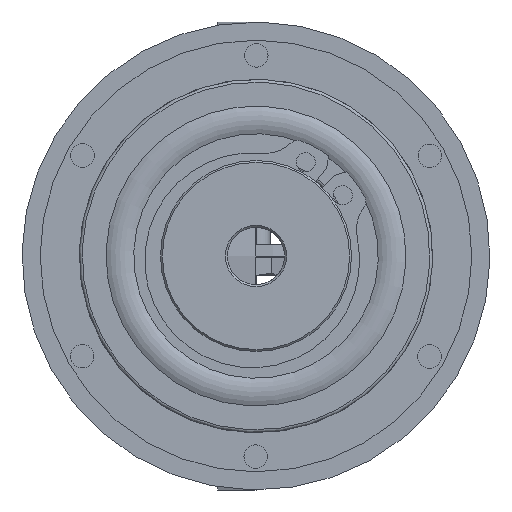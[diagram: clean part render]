
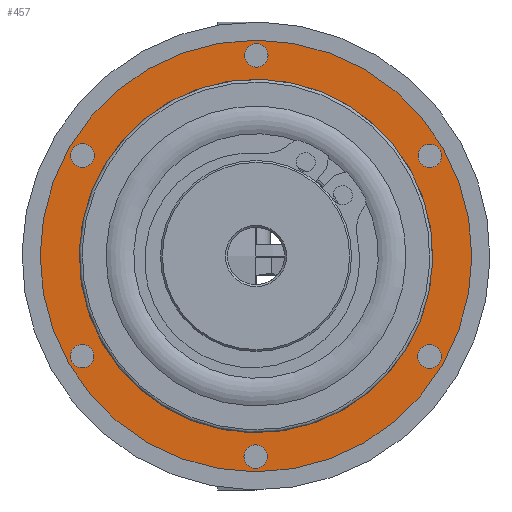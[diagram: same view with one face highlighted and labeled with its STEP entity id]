
A CAD part, left-side view. The second image highlights one B-rep face of the part: STEP entity #457.
In plain terms, the highlighted planar face has unit normal (-1, 0, 0).
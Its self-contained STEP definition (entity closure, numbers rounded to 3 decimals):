
#457 = ADVANCED_FACE( '', ( #815, #816, #817, #818, #819, #820, #821, #822 ), #823, .T. );
#815 = FACE_OUTER_BOUND( '', #1227, .T. );
#816 = FACE_BOUND( '', #1228, .T. );
#817 = FACE_BOUND( '', #1229, .T. );
#818 = FACE_BOUND( '', #1230, .T. );
#819 = FACE_BOUND( '', #1231, .T. );
#820 = FACE_BOUND( '', #1232, .T. );
#821 = FACE_BOUND( '', #1233, .T. );
#822 = FACE_BOUND( '', #1234, .T. );
#823 = PLANE( '', #1235 );
#1227 = EDGE_LOOP( '', ( #1947 ) );
#1228 = EDGE_LOOP( '', ( #1948 ) );
#1229 = EDGE_LOOP( '', ( #1949 ) );
#1230 = EDGE_LOOP( '', ( #1950 ) );
#1231 = EDGE_LOOP( '', ( #1951 ) );
#1232 = EDGE_LOOP( '', ( #1952 ) );
#1233 = EDGE_LOOP( '', ( #1953 ) );
#1234 = EDGE_LOOP( '', ( #1954 ) );
#1235 = AXIS2_PLACEMENT_3D( '', #1955, #1956, #1957 );
#1947 = ORIENTED_EDGE( '', *, *, #2429, .T. );
#1948 = ORIENTED_EDGE( '', *, *, #2433, .T. );
#1949 = ORIENTED_EDGE( '', *, *, #2434, .T. );
#1950 = ORIENTED_EDGE( '', *, *, #2435, .T. );
#1951 = ORIENTED_EDGE( '', *, *, #2424, .T. );
#1952 = ORIENTED_EDGE( '', *, *, #2431, .T. );
#1953 = ORIENTED_EDGE( '', *, *, #2436, .T. );
#1954 = ORIENTED_EDGE( '', *, *, #2428, .F. );
#1955 = CARTESIAN_POINT( '', ( 0., 18.5, 0. ) );
#1956 = DIRECTION( '', ( -1., 0., 0. ) );
#1957 = DIRECTION( '', ( 0., 0., 1. ) );
#2424 = EDGE_CURVE( '', #2784, #2784, #2785, .T. );
#2428 = EDGE_CURVE( '', #2792, #2792, #2793, .T. );
#2429 = EDGE_CURVE( '', #2794, #2794, #2795, .T. );
#2431 = EDGE_CURVE( '', #2798, #2798, #2799, .T. );
#2433 = EDGE_CURVE( '', #2802, #2802, #2803, .T. );
#2434 = EDGE_CURVE( '', #2804, #2804, #2805, .T. );
#2435 = EDGE_CURVE( '', #2806, #2806, #2807, .T. );
#2436 = EDGE_CURVE( '', #2808, #2808, #2809, .T. );
#2784 = VERTEX_POINT( '', #3394 );
#2785 = CIRCLE( '', #3395, 1.23 );
#2792 = VERTEX_POINT( '', #3402 );
#2793 = CIRCLE( '', #3403, 18.5 );
#2794 = VERTEX_POINT( '', #3404 );
#2795 = CIRCLE( '', #3405, 22.6 );
#2798 = VERTEX_POINT( '', #3408 );
#2799 = CIRCLE( '', #3409, 1.23 );
#2802 = VERTEX_POINT( '', #3412 );
#2803 = CIRCLE( '', #3413, 1.23 );
#2804 = VERTEX_POINT( '', #3414 );
#2805 = CIRCLE( '', #3415, 1.23 );
#2806 = VERTEX_POINT( '', #3416 );
#2807 = CIRCLE( '', #3417, 1.23 );
#2808 = VERTEX_POINT( '', #3418 );
#2809 = CIRCLE( '', #3419, 1.23 );
#3394 = CARTESIAN_POINT( '', ( 0., -11.565, 17.572 ) );
#3395 = AXIS2_PLACEMENT_3D( '', #3923, #3924, #3925 );
#3402 = CARTESIAN_POINT( '', ( 0., 0., 18.5 ) );
#3403 = AXIS2_PLACEMENT_3D( '', #3935, #3936, #3937 );
#3404 = CARTESIAN_POINT( '', ( 0., 0., 22.6 ) );
#3405 = AXIS2_PLACEMENT_3D( '', #3938, #3939, #3940 );
#3408 = CARTESIAN_POINT( '', ( 0., 9.435, 18.801 ) );
#3409 = AXIS2_PLACEMENT_3D( '', #3944, #3945, #3946 );
#3412 = CARTESIAN_POINT( '', ( 0., 11.565, -17.572 ) );
#3413 = AXIS2_PLACEMENT_3D( '', #3950, #3951, #3952 );
#3414 = CARTESIAN_POINT( '', ( 0., -9.435, -18.801 ) );
#3415 = AXIS2_PLACEMENT_3D( '', #3953, #3954, #3955 );
#3416 = CARTESIAN_POINT( '', ( 0., -21., -1.23 ) );
#3417 = AXIS2_PLACEMENT_3D( '', #3956, #3957, #3958 );
#3418 = CARTESIAN_POINT( '', ( 0., 21., 1.23 ) );
#3419 = AXIS2_PLACEMENT_3D( '', #3959, #3960, #3961 );
#3923 = CARTESIAN_POINT( '', ( 0., -10.5, 18.187 ) );
#3924 = DIRECTION( '', ( 1., 0., 0. ) );
#3925 = DIRECTION( '', ( 0., -0.866, -0.5 ) );
#3935 = CARTESIAN_POINT( '', ( 0., 0., 0. ) );
#3936 = DIRECTION( '', ( -1., 0., 0. ) );
#3937 = DIRECTION( '', ( 0., 0., 1. ) );
#3938 = CARTESIAN_POINT( '', ( 0., 0., 0. ) );
#3939 = DIRECTION( '', ( -1., 0., 0. ) );
#3940 = DIRECTION( '', ( 0., 0., 1. ) );
#3944 = CARTESIAN_POINT( '', ( 0., 10.5, 18.187 ) );
#3945 = DIRECTION( '', ( 1., 0., 0. ) );
#3946 = DIRECTION( '', ( 0., -0.866, 0.5 ) );
#3950 = CARTESIAN_POINT( '', ( 0., 10.5, -18.187 ) );
#3951 = DIRECTION( '', ( 1., 0., 0. ) );
#3952 = DIRECTION( '', ( 0., 0.866, 0.5 ) );
#3953 = CARTESIAN_POINT( '', ( 0., -10.5, -18.187 ) );
#3954 = DIRECTION( '', ( 1., 0., 0. ) );
#3955 = DIRECTION( '', ( 0., 0.866, -0.5 ) );
#3956 = CARTESIAN_POINT( '', ( 0., -21., 0. ) );
#3957 = DIRECTION( '', ( 1., 0., 0. ) );
#3958 = DIRECTION( '', ( 0., 0., -1. ) );
#3959 = CARTESIAN_POINT( '', ( 0., 21., 0. ) );
#3960 = DIRECTION( '', ( 1., 0., 0. ) );
#3961 = DIRECTION( '', ( 0., 0., 1. ) );
